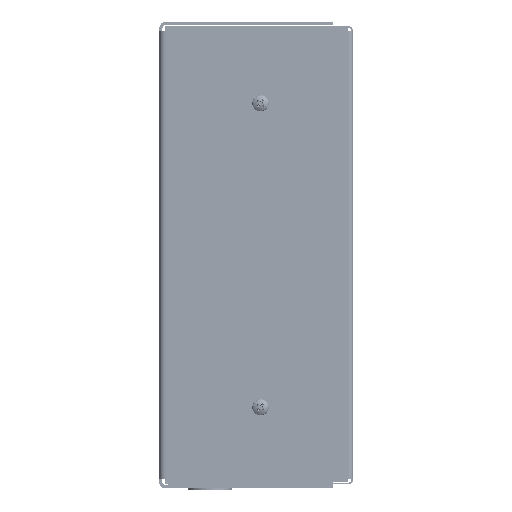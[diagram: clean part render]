
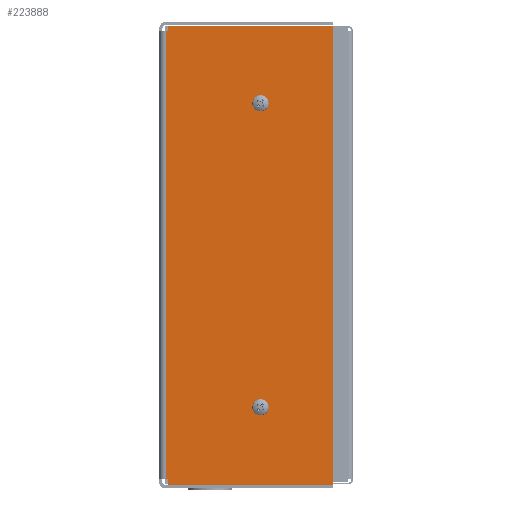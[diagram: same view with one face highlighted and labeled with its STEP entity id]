
A CAD part, left-side view. The second image highlights one B-rep face of the part: STEP entity #223888.
In plain terms, the highlighted planar face has unit normal (-1, 0, 0).
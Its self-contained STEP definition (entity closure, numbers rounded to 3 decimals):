
#3113 = VERTEX_POINT ( 'NONE', #171126 ) ;
#4086 = FACE_OUTER_BOUND ( 'NONE', #72750, .T. ) ;
#21872 = DIRECTION ( 'NONE',  ( 0., 1., 0. ) ) ;
#25705 = PLANE ( 'NONE',  #258744 ) ;
#29269 = LINE ( 'NONE', #172285, #251802 ) ;
#30110 = CARTESIAN_POINT ( 'NONE',  ( -712.775, 9.766, 230.048 ) ) ;
#30310 = DIRECTION ( 'NONE',  ( 0., 0., -1. ) ) ;
#30695 = CARTESIAN_POINT ( 'NONE',  ( -712.775, 9.766, 229.17 ) ) ;
#32085 = EDGE_CURVE ( 'NONE', #185472, #194228, #193511, .T. ) ;
#37228 = CIRCLE ( 'NONE', #66174, 2.769 ) ;
#37829 = FACE_BOUND ( 'NONE', #189184, .T. ) ;
#38549 = DIRECTION ( 'NONE',  ( 0., -1., 0. ) ) ;
#48843 = CARTESIAN_POINT ( 'NONE',  ( -712.775, 49.047, 38.735 ) ) ;
#50160 = EDGE_CURVE ( 'NONE', #136319, #221600, #110692, .T. ) ;
#53093 = LINE ( 'NONE', #30695, #150849 ) ;
#60702 = VERTEX_POINT ( 'NONE', #249775 ) ;
#65620 = EDGE_CURVE ( 'NONE', #100123, #60702, #29269, .T. ) ;
#66174 = AXIS2_PLACEMENT_3D ( 'NONE', #239435, #85878, #21872 ) ;
#69602 = VERTEX_POINT ( 'NONE', #250192 ) ;
#72691 = VECTOR ( 'NONE', #99603, 1000. ) ;
#72750 = EDGE_LOOP ( 'NONE', ( #208657, #229347, #155995, #190384, #195856, #259860, #253416, #90883 ) ) ;
#73287 = LINE ( 'NONE', #201530, #80078 ) ;
#79410 = LINE ( 'NONE', #247727, #221038 ) ;
#80078 = VECTOR ( 'NONE', #220477, 1000. ) ;
#85657 = VERTEX_POINT ( 'NONE', #48843 ) ;
#85878 = DIRECTION ( 'NONE',  ( 1., 0., 0. ) ) ;
#89836 = CARTESIAN_POINT ( 'NONE',  ( -712.775, 46.279, 38.735 ) ) ;
#90647 = DIRECTION ( 'NONE',  ( 1., 0., 0. ) ) ;
#90883 = ORIENTED_EDGE ( 'NONE', *, *, #65620, .T. ) ;
#91466 = DIRECTION ( 'NONE',  ( 0., -1., 0. ) ) ;
#94180 = AXIS2_PLACEMENT_3D ( 'NONE', #89836, #218009, #197234 ) ;
#99603 = DIRECTION ( 'NONE',  ( 0., 0., -1. ) ) ;
#100123 = VERTEX_POINT ( 'NONE', #235277 ) ;
#107660 = EDGE_CURVE ( 'NONE', #85657, #85657, #206792, .T. ) ;
#110692 = LINE ( 'NONE', #153596, #275915 ) ;
#117934 = VECTOR ( 'NONE', #161120, 1000. ) ;
#120860 = EDGE_LOOP ( 'NONE', ( #229082 ) ) ;
#136319 = VERTEX_POINT ( 'NONE', #227532 ) ;
#142319 = CARTESIAN_POINT ( 'NONE',  ( -712.775, 92.488, 58.747 ) ) ;
#150150 = LINE ( 'NONE', #252243, #72691 ) ;
#150849 = VECTOR ( 'NONE', #269897, 1000. ) ;
#153596 = CARTESIAN_POINT ( 'NONE',  ( -712.775, 76.176, 2.559 ) ) ;
#155995 = ORIENTED_EDGE ( 'NONE', *, *, #170460, .T. ) ;
#158225 = CARTESIAN_POINT ( 'NONE',  ( -712.775, 53.463, 114.935 ) ) ;
#161120 = DIRECTION ( 'NONE',  ( 0., 0., -1. ) ) ;
#162409 = CARTESIAN_POINT ( 'NONE',  ( -712.775, 92.488, -0.178 ) ) ;
#170460 = EDGE_CURVE ( 'NONE', #221600, #194228, #232600, .T. ) ;
#171126 = CARTESIAN_POINT ( 'NONE',  ( -712.775, 92.488, 230.048 ) ) ;
#172285 = CARTESIAN_POINT ( 'NONE',  ( -712.775, 72.975, 227.311 ) ) ;
#179770 = CARTESIAN_POINT ( 'NONE',  ( -712.775, 92.488, -0.178 ) ) ;
#185472 = VERTEX_POINT ( 'NONE', #218581 ) ;
#186740 = VECTOR ( 'NONE', #274630, 1000. ) ;
#189184 = EDGE_LOOP ( 'NONE', ( #255206 ) ) ;
#190384 = ORIENTED_EDGE ( 'NONE', *, *, #32085, .F. ) ;
#193511 = LINE ( 'NONE', #162409, #186740 ) ;
#194228 = VERTEX_POINT ( 'NONE', #179770 ) ;
#195856 = ORIENTED_EDGE ( 'NONE', *, *, #246941, .F. ) ;
#197234 = DIRECTION ( 'NONE',  ( 0., 1., 0. ) ) ;
#201530 = CARTESIAN_POINT ( 'NONE',  ( -712.775, 92.488, 174.323 ) ) ;
#206792 = CIRCLE ( 'NONE', #94180, 2.769 ) ;
#208657 = ORIENTED_EDGE ( 'NONE', *, *, #254632, .T. ) ;
#216737 = DIRECTION ( 'NONE',  ( 0., 1., 0. ) ) ;
#218009 = DIRECTION ( 'NONE',  ( 1., 0., 0. ) ) ;
#218581 = CARTESIAN_POINT ( 'NONE',  ( -712.775, 9.766, -0.178 ) ) ;
#219824 = CARTESIAN_POINT ( 'NONE',  ( -712.775, 92.488, 2.559 ) ) ;
#220477 = DIRECTION ( 'NONE',  ( 0., 0., -1. ) ) ;
#221038 = VECTOR ( 'NONE', #38549, 1000. ) ;
#221600 = VERTEX_POINT ( 'NONE', #219824 ) ;
#223888 = ADVANCED_FACE ( 'NONE', ( #4086, #37829, #226430 ), #25705, .F. ) ;
#226430 = FACE_BOUND ( 'NONE', #120860, .T. ) ;
#227532 = CARTESIAN_POINT ( 'NONE',  ( -712.775, 93.878, 2.559 ) ) ;
#229082 = ORIENTED_EDGE ( 'NONE', *, *, #107660, .T. ) ;
#229347 = ORIENTED_EDGE ( 'NONE', *, *, #50160, .T. ) ;
#232600 = LINE ( 'NONE', #142319, #117934 ) ;
#234100 = EDGE_CURVE ( 'NONE', #69602, #69602, #37228, .T. ) ;
#235277 = CARTESIAN_POINT ( 'NONE',  ( -712.775, 92.488, 227.311 ) ) ;
#239435 = CARTESIAN_POINT ( 'NONE',  ( -712.775, 46.279, 191.135 ) ) ;
#245400 = EDGE_CURVE ( 'NONE', #3113, #100123, #73287, .T. ) ;
#246941 = EDGE_CURVE ( 'NONE', #250572, #185472, #53093, .T. ) ;
#247727 = CARTESIAN_POINT ( 'NONE',  ( -712.775, 92.488, 230.048 ) ) ;
#249775 = CARTESIAN_POINT ( 'NONE',  ( -712.775, 93.878, 227.311 ) ) ;
#250192 = CARTESIAN_POINT ( 'NONE',  ( -712.775, 49.047, 191.135 ) ) ;
#250572 = VERTEX_POINT ( 'NONE', #30110 ) ;
#251802 = VECTOR ( 'NONE', #216737, 1000. ) ;
#252243 = CARTESIAN_POINT ( 'NONE',  ( -712.775, 93.878, 114.935 ) ) ;
#253416 = ORIENTED_EDGE ( 'NONE', *, *, #245400, .T. ) ;
#254632 = EDGE_CURVE ( 'NONE', #60702, #136319, #150150, .T. ) ;
#255206 = ORIENTED_EDGE ( 'NONE', *, *, #234100, .T. ) ;
#257877 = EDGE_CURVE ( 'NONE', #3113, #250572, #79410, .T. ) ;
#258744 = AXIS2_PLACEMENT_3D ( 'NONE', #158225, #90647, #30310 ) ;
#259860 = ORIENTED_EDGE ( 'NONE', *, *, #257877, .F. ) ;
#269897 = DIRECTION ( 'NONE',  ( 0., 0., -1. ) ) ;
#274630 = DIRECTION ( 'NONE',  ( 0., 1., 0. ) ) ;
#275915 = VECTOR ( 'NONE', #91466, 1000. ) ;
